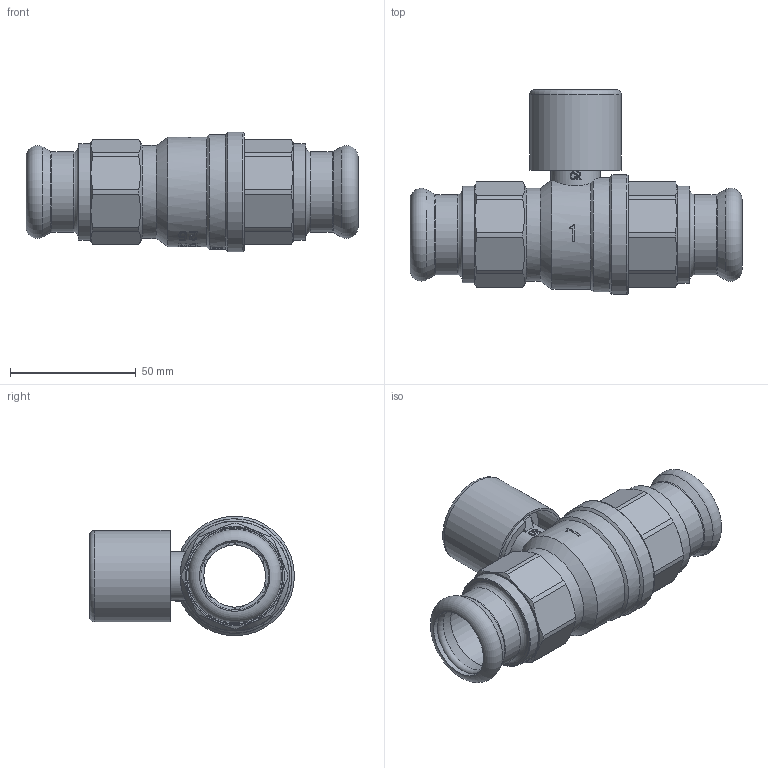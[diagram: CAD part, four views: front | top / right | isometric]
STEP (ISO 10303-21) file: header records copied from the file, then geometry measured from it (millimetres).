
FILE_DESCRIPTION((''),'2;1');
FILE_NAME('P:\Fastrack\53972_CRANE 3D\Press Fit\D171A\Lockshield\28MM\D171ALS-PF-28MM.stp','2011-11-18T14:46:47',('dcole'),(''),'Autodesk Inventor 2008','Autodesk Inventor 2008','');
FILE_SCHEMA(('AUTOMOTIVE_DESIGN { 1 0 10303 214 1 1 1 1 }'));
Length unit declared in the file: millimetre
Products named in the file (1): D171ALS-PF-28MM
Bounding box: 132 x 81.45 x 47.5 mm (x, y, z)
Volume: 102549.3 mm3; surface area: 50503.9 mm2
Topology: 1 solids, 1 shells, 541 faces, 1602 edges, 1116 vertices
Faces by surface type: plane 240, bspline 105, cylinder 97, cone 89, torus 10
Full cylindrical faces by diameter (mm): 2 x2, 10 x1, 10.1 x2, 10.3 x1, 14 x1, 14.3 x1, 14.5 x1, 19.5 x1, 22.2 x1, 24 x2, 24.8 x5, 28 x4, 30 x2, 30.291 x2, 32 x2, 34.4 x1, 36.4 x1, 37 x1, 38.5 x2, 45.5 x1, 47.5 x1
Entity records: 38447 total; most frequent: CARTESIAN_POINT 24555, ORIENTED_EDGE 2978, DIRECTION 2390, EDGE_CURVE 1489, VERTEX_POINT 1084, AXIS2_PLACEMENT_3D 854, EDGE_LOOP 703, VECTOR 682
